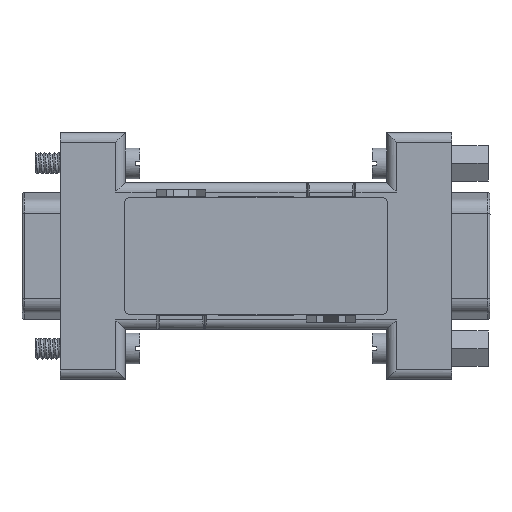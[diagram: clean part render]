
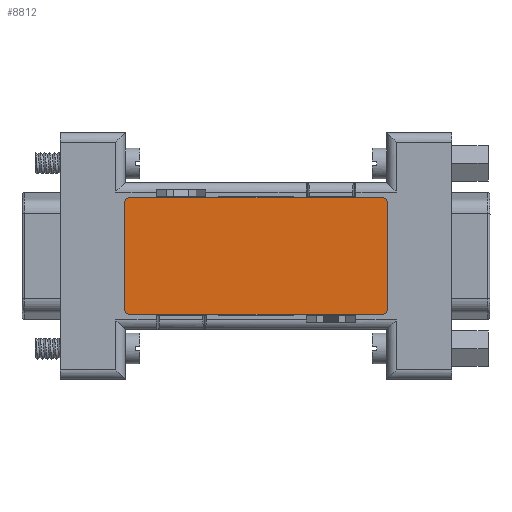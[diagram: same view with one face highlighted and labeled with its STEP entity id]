
A CAD part, front view. The second image highlights one B-rep face of the part: STEP entity #8812.
In plain terms, the highlighted planar face has unit normal (0, -1, 0) as drawn and (0, 1, 0) by its records, which use the part's own axes.
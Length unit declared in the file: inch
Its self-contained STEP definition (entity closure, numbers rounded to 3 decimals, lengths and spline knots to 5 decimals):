
#606 = CARTESIAN_POINT ( 'NONE',  ( 0.67, 0.01, 0.28 ) ) ;
#649 = ORIENTED_EDGE ( 'NONE', *, *, #16832, .T. ) ;
#742 = DIRECTION ( 'NONE',  ( 0., 0., 1. ) ) ;
#759 = DIRECTION ( 'NONE',  ( 0., 0., 1. ) ) ;
#786 = CARTESIAN_POINT ( 'NONE',  ( -0.67, 0.01, 0.28 ) ) ;
#2376 = AXIS2_PLACEMENT_3D ( 'NONE', #786, #13149, #2597 ) ;
#2432 = DIRECTION ( 'NONE',  ( 0., 0., 1. ) ) ;
#2597 = DIRECTION ( 'NONE',  ( 0., 0., 1. ) ) ;
#2708 = FACE_OUTER_BOUND ( 'NONE', #18563, .T. ) ;
#3319 = AXIS2_PLACEMENT_3D ( 'NONE', #22007, #11319, #759 ) ;
#3708 = CIRCLE ( 'NONE', #3319, 0.03 ) ;
#3909 = AXIS2_PLACEMENT_3D ( 'NONE', #606, #12981, #2432 ) ;
#4343 = VERTEX_POINT ( 'NONE', #13043 ) ;
#4539 = VERTEX_POINT ( 'NONE', #10469 ) ;
#4773 = CARTESIAN_POINT ( 'NONE',  ( 0.67, 0.01, -0.28 ) ) ;
#4985 = DIRECTION ( 'NONE',  ( 0., 0., -1. ) ) ;
#5757 = CARTESIAN_POINT ( 'NONE',  ( 0.7, 0.01, 0.28 ) ) ;
#6123 = CARTESIAN_POINT ( 'NONE',  ( 0.67, 0.01, 0.31 ) ) ;
#6139 = LINE ( 'NONE', #10116, #10228 ) ;
#6537 = DIRECTION ( 'NONE',  ( 0., 0., -1. ) ) ;
#6642 = EDGE_CURVE ( 'NONE', #4539, #4343, #15424, .T. ) ;
#7661 = AXIS2_PLACEMENT_3D ( 'NONE', #4773, #17158, #6537 ) ;
#7904 = DIRECTION ( 'NONE',  ( 0., 1., 0. ) ) ;
#8610 = EDGE_CURVE ( 'NONE', #11088, #4539, #10653, .T. ) ;
#8812 = ADVANCED_FACE ( 'NONE', ( #2708 ), #11267, .T. ) ;
#9217 = ORIENTED_EDGE ( 'NONE', *, *, #8610, .T. ) ;
#10010 = ORIENTED_EDGE ( 'NONE', *, *, #6642, .T. ) ;
#10116 = CARTESIAN_POINT ( 'NONE',  ( -0.67, 0.01, 0.31 ) ) ;
#10228 = VECTOR ( 'NONE', #11894, 39.37008 ) ;
#10469 = CARTESIAN_POINT ( 'NONE',  ( -0.7, 0.01, 0.28 ) ) ;
#10653 = LINE ( 'NONE', #21418, #14835 ) ;
#11088 = VERTEX_POINT ( 'NONE', #20521 ) ;
#11201 = VERTEX_POINT ( 'NONE', #15532 ) ;
#11267 = PLANE ( 'NONE',  #19977 ) ;
#11319 = DIRECTION ( 'NONE',  ( 0., 1., 0. ) ) ;
#11683 = LINE ( 'NONE', #19236, #15849 ) ;
#11830 = VERTEX_POINT ( 'NONE', #18732 ) ;
#11894 = DIRECTION ( 'NONE',  ( 1., 0., 0. ) ) ;
#12454 = ORIENTED_EDGE ( 'NONE', *, *, #16491, .T. ) ;
#12523 = ORIENTED_EDGE ( 'NONE', *, *, #14005, .T. ) ;
#12910 = ORIENTED_EDGE ( 'NONE', *, *, #21424, .T. ) ;
#12981 = DIRECTION ( 'NONE',  ( 0., 1., 0. ) ) ;
#13043 = CARTESIAN_POINT ( 'NONE',  ( -0.67, 0.01, 0.31 ) ) ;
#13149 = DIRECTION ( 'NONE',  ( 0., 1., 0. ) ) ;
#13758 = CARTESIAN_POINT ( 'NONE',  ( 0.7, 0.01, -0.28 ) ) ;
#14005 = EDGE_CURVE ( 'NONE', #15429, #11201, #22771, .T. ) ;
#14835 = VECTOR ( 'NONE', #742, 39.37008 ) ;
#14934 = CARTESIAN_POINT ( 'NONE',  ( 0.67, 0.01, 0.28 ) ) ;
#15424 = CIRCLE ( 'NONE', #2376, 0.03 ) ;
#15429 = VERTEX_POINT ( 'NONE', #15924 ) ;
#15532 = CARTESIAN_POINT ( 'NONE',  ( 0.67, 0.01, -0.31 ) ) ;
#15849 = VECTOR ( 'NONE', #17472, 39.37008 ) ;
#15924 = CARTESIAN_POINT ( 'NONE',  ( 0.7, 0.01, -0.28 ) ) ;
#16491 = EDGE_CURVE ( 'NONE', #21243, #15429, #17828, .T. ) ;
#16832 = EDGE_CURVE ( 'NONE', #11830, #11088, #3708, .T. ) ;
#16846 = ORIENTED_EDGE ( 'NONE', *, *, #17566, .T. ) ;
#17158 = DIRECTION ( 'NONE',  ( 0., 1., 0. ) ) ;
#17472 = DIRECTION ( 'NONE',  ( -1., 0., 0. ) ) ;
#17566 = EDGE_CURVE ( 'NONE', #20444, #21243, #19424, .T. ) ;
#17828 = LINE ( 'NONE', #13758, #22573 ) ;
#18563 = EDGE_LOOP ( 'NONE', ( #16846, #12454, #12523, #20666, #649, #9217, #10010, #12910 ) ) ;
#18732 = CARTESIAN_POINT ( 'NONE',  ( -0.67, 0.01, -0.31 ) ) ;
#19236 = CARTESIAN_POINT ( 'NONE',  ( -0.67, 0.01, -0.31 ) ) ;
#19424 = CIRCLE ( 'NONE', #3909, 0.03 ) ;
#19977 = AXIS2_PLACEMENT_3D ( 'NONE', #14934, #7904, #20297 ) ;
#20297 = DIRECTION ( 'NONE',  ( 0., 0., 1. ) ) ;
#20444 = VERTEX_POINT ( 'NONE', #6123 ) ;
#20521 = CARTESIAN_POINT ( 'NONE',  ( -0.7, 0.01, -0.28 ) ) ;
#20666 = ORIENTED_EDGE ( 'NONE', *, *, #20996, .T. ) ;
#20996 = EDGE_CURVE ( 'NONE', #11201, #11830, #11683, .T. ) ;
#21243 = VERTEX_POINT ( 'NONE', #5757 ) ;
#21418 = CARTESIAN_POINT ( 'NONE',  ( -0.7, 0.01, -0.28 ) ) ;
#21424 = EDGE_CURVE ( 'NONE', #4343, #20444, #6139, .T. ) ;
#22007 = CARTESIAN_POINT ( 'NONE',  ( -0.67, 0.01, -0.28 ) ) ;
#22573 = VECTOR ( 'NONE', #4985, 39.37008 ) ;
#22771 = CIRCLE ( 'NONE', #7661, 0.03 ) ;
